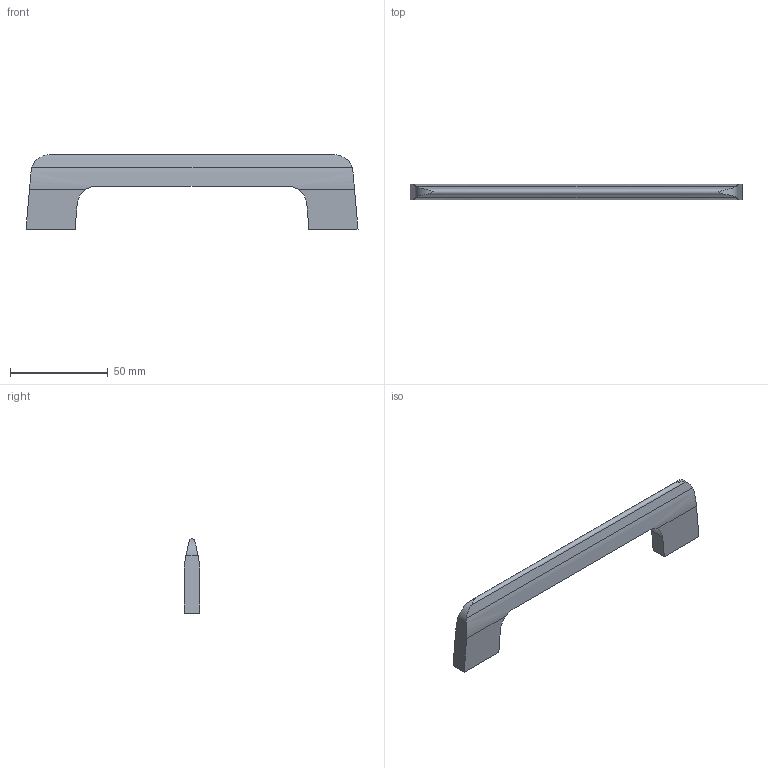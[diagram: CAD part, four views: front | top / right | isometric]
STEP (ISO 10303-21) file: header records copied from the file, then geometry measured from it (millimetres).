
FILE_DESCRIPTION( ( '' ), '1' );
FILE_NAME( 'D:/temp/hettich_stp/hettich/prodecor_handles/organic/9065632.stp', '2013-02-26T12:48:49', ( '' ), ( '' ), ' ', ' ', ' ' );
FILE_SCHEMA( ( 'automotive_design' ) );
Length unit declared in the file: millimetre
Products named in the file (1): 1
Bounding box: 170 x 8 x 38 mm (x, y, z)
Volume: 23862.7 mm3; surface area: 10201.7 mm2
Topology: 1 solids, 1 shells, 26 faces, 68 edges, 46 vertices
Faces by surface type: plane 15, cylinder 11
Entity records: 1686 total; most frequent: CARTESIAN_POINT 241, STYLED_ITEM 141, PRESENTATION_STYLE_ASSIGNMENT 141, COLOUR_RGB 141, ORIENTED_EDGE 136, DIRECTION 130, EDGE_CURVE 68, CURVE_STYLE 68
